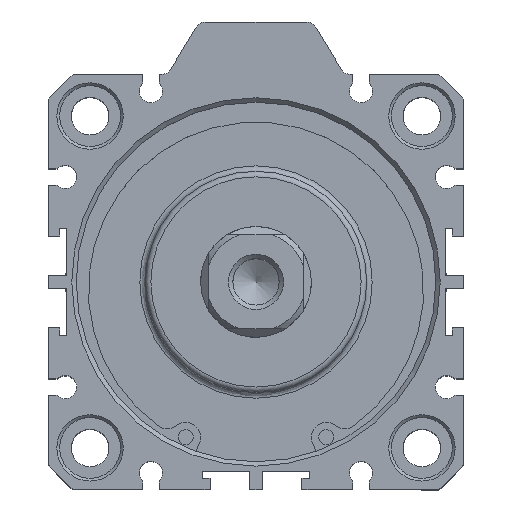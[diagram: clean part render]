
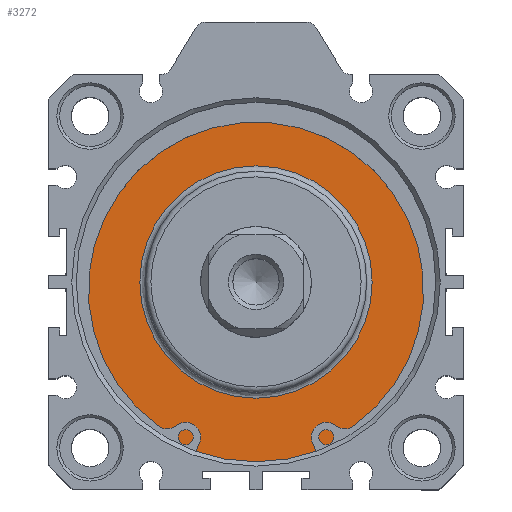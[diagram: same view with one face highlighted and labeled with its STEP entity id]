
A CAD part, top view. The second image highlights one B-rep face of the part: STEP entity #3272.
In plain terms, the highlighted planar face has unit normal (0, 0, 1).
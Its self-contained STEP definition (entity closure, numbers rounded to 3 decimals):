
#3221=CARTESIAN_POINT('',(0.359,19.684,57.3));
#3222=VERTEX_POINT('',#3221);
#3223=CARTESIAN_POINT('',(0.359,-1.316,57.3));
#3224=DIRECTION('',(0.0,0.0,1.0));
#3225=DIRECTION('',(0.0,-1.0,0.0));
#3226=AXIS2_PLACEMENT_3D('',#3223,#3224,#3225);
#3227=CIRCLE('',#3226,21.0);
#3228=EDGE_CURVE('',#3222,#3222,#3227,.T.);
#3253=CARTESIAN_POINT('',(0.359,24.934,57.3));
#3254=DIRECTION('',(0.0,0.0,1.0));
#3255=DIRECTION('',(1.0,0.0,0.0));
#3256=AXIS2_PLACEMENT_3D('',#3253,#3254,#3255);
#3257=PLANE('',#3256);
#3258=CARTESIAN_POINT('',(0.359,31.184,57.3));
#3259=VERTEX_POINT('',#3258);
#3260=CARTESIAN_POINT('',(0.359,-1.316,57.3));
#3261=DIRECTION('',(0.0,0.0,-1.0));
#3262=DIRECTION('',(0.0,1.0,0.0));
#3263=AXIS2_PLACEMENT_3D('',#3260,#3261,#3262);
#3264=CIRCLE('',#3263,32.5);
#3265=EDGE_CURVE('',#3259,#3259,#3264,.T.);
#3266=ORIENTED_EDGE('',*,*,#3265,.F.);
#3267=EDGE_LOOP('',(#3266));
#3268=FACE_OUTER_BOUND('',#3267,.T.);
#3269=ORIENTED_EDGE('',*,*,#3228,.F.);
#3270=EDGE_LOOP('',(#3269));
#3271=FACE_BOUND('',#3270,.T.);
#3272=ADVANCED_FACE('',(#3268,#3271),#3257,.T.);
